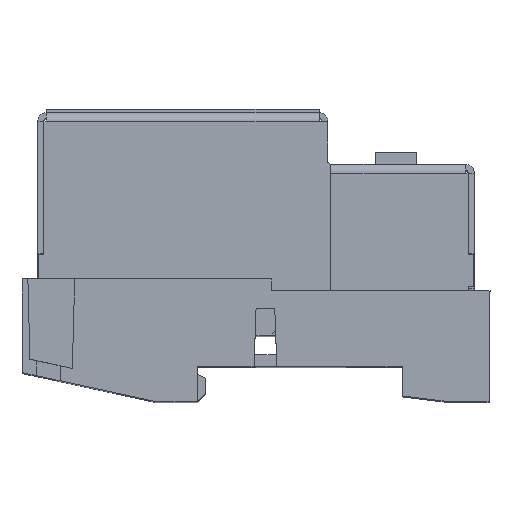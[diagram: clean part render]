
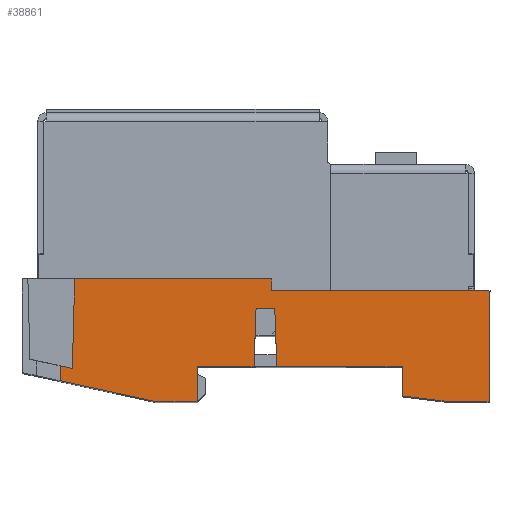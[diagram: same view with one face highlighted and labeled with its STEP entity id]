
A CAD part, top view. The second image highlights one B-rep face of the part: STEP entity #38861.
In plain terms, the highlighted planar face has unit normal (0, -0.009, 1).
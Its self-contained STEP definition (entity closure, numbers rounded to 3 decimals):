
#690 = DIRECTION ( 'NONE',  ( 0., -1., -0.009 ) ) ;
#944 = EDGE_CURVE ( 'NONE', #45774, #19540, #26215, .T. ) ;
#1101 = DIRECTION ( 'NONE',  ( 0.035, -0.999, -0.009 ) ) ;
#1141 = VERTEX_POINT ( 'NONE', #6861 ) ;
#1143 = ORIENTED_EDGE ( 'NONE', *, *, #3344, .T. ) ;
#1192 = CARTESIAN_POINT ( 'NONE',  ( -3.322, -15.278, 48.867 ) ) ;
#1337 = ORIENTED_EDGE ( 'NONE', *, *, #3482, .T. ) ;
#1701 = ORIENTED_EDGE ( 'NONE', *, *, #17022, .F. ) ;
#1982 = CARTESIAN_POINT ( 'NONE',  ( 42.707, -0.855, 48.993 ) ) ;
#2041 = DIRECTION ( 'NONE',  ( 0.035, 0.999, 0.009 ) ) ;
#2387 = VERTEX_POINT ( 'NONE', #42427 ) ;
#2420 = CARTESIAN_POINT ( 'NONE',  ( 30.181, -0.263, 48.998 ) ) ;
#2548 = VECTOR ( 'NONE', #3517, 1000. ) ;
#2570 = VECTOR ( 'NONE', #45564, 1000. ) ;
#2727 = VERTEX_POINT ( 'NONE', #6172 ) ;
#2750 = DIRECTION ( 'NONE',  ( -1., 0., 0. ) ) ;
#2776 = EDGE_CURVE ( 'NONE', #47921, #45774, #30044, .T. ) ;
#2827 = CARTESIAN_POINT ( 'NONE',  ( 30.052, -15., 48.869 ) ) ;
#3098 = EDGE_CURVE ( 'NONE', #23813, #2387, #37292, .T. ) ;
#3139 = VECTOR ( 'NONE', #41629, 1000. ) ;
#3344 = EDGE_CURVE ( 'NONE', #47209, #48500, #31767, .T. ) ;
#3418 = EDGE_CURVE ( 'NONE', #48500, #17091, #11730, .T. ) ;
#3482 = EDGE_CURVE ( 'NONE', #17091, #5913, #43264, .T. ) ;
#3517 = DIRECTION ( 'NONE',  ( 0.977, -0.212, -0.002 ) ) ;
#3631 = EDGE_CURVE ( 'NONE', #47209, #19540, #22003, .T. ) ;
#4737 = CARTESIAN_POINT ( 'NONE',  ( 0., -15., 48.869 ) ) ;
#5704 = CARTESIAN_POINT ( 'NONE',  ( 42.7, 0., 49. ) ) ;
#5913 = VERTEX_POINT ( 'NONE', #26767 ) ;
#6172 = CARTESIAN_POINT ( 'NONE',  ( 73., -21., 48.817 ) ) ;
#6306 = VECTOR ( 'NONE', #17872, 1000. ) ;
#6720 = DIRECTION ( 'NONE',  ( 1., 0., 0. ) ) ;
#6861 = CARTESIAN_POINT ( 'NONE',  ( 64.991, -19.999, 48.825 ) ) ;
#7793 = DIRECTION ( 'NONE',  ( 0., -0.009, 1. ) ) ;
#8496 = EDGE_CURVE ( 'NONE', #32065, #1141, #20196, .T. ) ;
#8643 = VECTOR ( 'NONE', #17848, 1000. ) ;
#8911 = VERTEX_POINT ( 'NONE', #12717 ) ;
#9224 = EDGE_CURVE ( 'NONE', #10789, #47921, #41689, .T. ) ;
#9337 = EDGE_CURVE ( 'NONE', #2727, #19313, #17911, .T. ) ;
#9874 = CARTESIAN_POINT ( 'NONE',  ( 80., -2., 48.983 ) ) ;
#10132 = CARTESIAN_POINT ( 'NONE',  ( 6.5, -14.855, 48.87 ) ) ;
#10789 = VERTEX_POINT ( 'NONE', #37441 ) ;
#11014 = CARTESIAN_POINT ( 'NONE',  ( 64.948, -15., 48.869 ) ) ;
#11548 = PLANE ( 'NONE',  #18625 ) ;
#11730 = LINE ( 'NONE', #1192, #32350 ) ;
#11976 = VECTOR ( 'NONE', #1101, 1000. ) ;
#12564 = CARTESIAN_POINT ( 'NONE',  ( 79.994, -0.698, 48.994 ) ) ;
#12717 = CARTESIAN_POINT ( 'NONE',  ( 39.651, -15., 48.869 ) ) ;
#13290 = VECTOR ( 'NONE', #36018, 1000. ) ;
#13915 = CARTESIAN_POINT ( 'NONE',  ( 64.812, 0.566, 49.005 ) ) ;
#14104 = CARTESIAN_POINT ( 'NONE',  ( 23., -21., 48.817 ) ) ;
#14790 = DIRECTION ( 'NONE',  ( 0.009, 1., 0.009 ) ) ;
#15156 = VECTOR ( 'NONE', #17714, 1000. ) ;
#16035 = FACE_OUTER_BOUND ( 'NONE', #21232, .T. ) ;
#16060 = EDGE_CURVE ( 'NONE', #8911, #2387, #47551, .T. ) ;
#16109 = ORIENTED_EDGE ( 'NONE', *, *, #8496, .T. ) ;
#16485 = DIRECTION ( 'NONE',  ( 0.009, 1., 0.009 ) ) ;
#16697 = VECTOR ( 'NONE', #6720, 1000. ) ;
#17022 = EDGE_CURVE ( 'NONE', #10789, #17028, #46178, .T. ) ;
#17028 = VERTEX_POINT ( 'NONE', #37223 ) ;
#17091 = VERTEX_POINT ( 'NONE', #14104 ) ;
#17714 = DIRECTION ( 'NONE',  ( 1., 0., 0. ) ) ;
#17848 = DIRECTION ( 'NONE',  ( 0.009, -1., -0.009 ) ) ;
#17853 = ORIENTED_EDGE ( 'NONE', *, *, #944, .T. ) ;
#17872 = DIRECTION ( 'NONE',  ( -1., 0., 0. ) ) ;
#17911 = LINE ( 'NONE', #49346, #16697 ) ;
#18354 = CARTESIAN_POINT ( 'NONE',  ( 8.599, -15.311, 48.866 ) ) ;
#18369 = ORIENTED_EDGE ( 'NONE', *, *, #16060, .T. ) ;
#18393 = CARTESIAN_POINT ( 'NONE',  ( 0., -15., 48.869 ) ) ;
#18625 = AXIS2_PLACEMENT_3D ( 'NONE', #31060, #7793, #34904 ) ;
#19313 = VERTEX_POINT ( 'NONE', #20920 ) ;
#19540 = VERTEX_POINT ( 'NONE', #18354 ) ;
#20026 = CARTESIAN_POINT ( 'NONE',  ( 6.5, 0., 49. ) ) ;
#20135 = CARTESIAN_POINT ( 'NONE',  ( 9., 0., 49. ) ) ;
#20196 = LINE ( 'NONE', #13915, #8643 ) ;
#20920 = CARTESIAN_POINT ( 'NONE',  ( 79.817, -21., 48.817 ) ) ;
#20975 = VECTOR ( 'NONE', #33019, 1000. ) ;
#21232 = EDGE_LOOP ( 'NONE', ( #28853, #1143, #40544, #1337, #45291, #27167, #18369, #39284, #46201, #45971, #16109, #38305, #34565, #49313, #1701, #29509, #49190, #17853 ) ) ;
#22003 = LINE ( 'NONE', #50096, #2548 ) ;
#22303 = LINE ( 'NONE', #43700, #11976 ) ;
#22968 = LINE ( 'NONE', #34641, #42444 ) ;
#23233 = LINE ( 'NONE', #18393, #2570 ) ;
#23787 = EDGE_CURVE ( 'NONE', #5913, #41850, #36048, .T. ) ;
#23813 = VERTEX_POINT ( 'NONE', #38072 ) ;
#25110 = VERTEX_POINT ( 'NONE', #27428 ) ;
#25708 = VECTOR ( 'NONE', #14790, 1000. ) ;
#26215 = LINE ( 'NONE', #45386, #36521 ) ;
#26767 = CARTESIAN_POINT ( 'NONE',  ( 30., -21., 48.817 ) ) ;
#26896 = VECTOR ( 'NONE', #2041, 1000. ) ;
#27167 = ORIENTED_EDGE ( 'NONE', *, *, #36332, .T. ) ;
#27428 = CARTESIAN_POINT ( 'NONE',  ( 43.549, -15., 48.869 ) ) ;
#28853 = ORIENTED_EDGE ( 'NONE', *, *, #3631, .F. ) ;
#29509 = ORIENTED_EDGE ( 'NONE', *, *, #9224, .T. ) ;
#29911 = CARTESIAN_POINT ( 'NONE',  ( 0., 0., 49. ) ) ;
#30044 = LINE ( 'NONE', #29911, #40388 ) ;
#30531 = LINE ( 'NONE', #12564, #49990 ) ;
#31060 = CARTESIAN_POINT ( 'NONE',  ( 0., 0., 49. ) ) ;
#31767 = LINE ( 'NONE', #20026, #40896 ) ;
#32065 = VERTEX_POINT ( 'NONE', #11014 ) ;
#32350 = VECTOR ( 'NONE', #47574, 1000. ) ;
#32663 = CARTESIAN_POINT ( 'NONE',  ( 6.5, -17.413, 48.848 ) ) ;
#33019 = DIRECTION ( 'NONE',  ( -0.009, 1., 0.009 ) ) ;
#34565 = ORIENTED_EDGE ( 'NONE', *, *, #9337, .T. ) ;
#34641 = CARTESIAN_POINT ( 'NONE',  ( -1.462, -11.692, 48.898 ) ) ;
#34808 = EDGE_CURVE ( 'NONE', #25110, #32065, #44242, .T. ) ;
#34904 = DIRECTION ( 'NONE',  ( 0., -1., -0.009 ) ) ;
#35097 = EDGE_CURVE ( 'NONE', #1141, #2727, #22968, .T. ) ;
#36018 = DIRECTION ( 'NONE',  ( 1., 0., 0. ) ) ;
#36048 = LINE ( 'NONE', #2420, #25708 ) ;
#36332 = EDGE_CURVE ( 'NONE', #41850, #8911, #23233, .T. ) ;
#36521 = VECTOR ( 'NONE', #49496, 1000. ) ;
#37181 = CARTESIAN_POINT ( 'NONE',  ( 40.126, -1.401, 48.988 ) ) ;
#37223 = CARTESIAN_POINT ( 'NONE',  ( 79.983, -2., 48.983 ) ) ;
#37292 = LINE ( 'NONE', #41340, #6306 ) ;
#37441 = CARTESIAN_POINT ( 'NONE',  ( 42.717, -2., 48.983 ) ) ;
#37688 = CARTESIAN_POINT ( 'NONE',  ( 0., -21., 48.817 ) ) ;
#38072 = CARTESIAN_POINT ( 'NONE',  ( 43.2, -5., 48.956 ) ) ;
#38305 = ORIENTED_EDGE ( 'NONE', *, *, #35097, .T. ) ;
#38861 = ADVANCED_FACE ( 'NONE', ( #16035 ), #11548, .T. ) ;
#39284 = ORIENTED_EDGE ( 'NONE', *, *, #3098, .F. ) ;
#40388 = VECTOR ( 'NONE', #2750, 1000. ) ;
#40544 = ORIENTED_EDGE ( 'NONE', *, *, #3418, .T. ) ;
#40896 = VECTOR ( 'NONE', #690, 1000. ) ;
#41340 = CARTESIAN_POINT ( 'NONE',  ( 0., -5., 48.956 ) ) ;
#41629 = DIRECTION ( 'NONE',  ( 1., 0., 0. ) ) ;
#41689 = LINE ( 'NONE', #1982, #20975 ) ;
#41850 = VERTEX_POINT ( 'NONE', #2827 ) ;
#42334 = DIRECTION ( 'NONE',  ( 0.992, -0.124, -0.001 ) ) ;
#42427 = CARTESIAN_POINT ( 'NONE',  ( 40., -5., 48.956 ) ) ;
#42444 = VECTOR ( 'NONE', #42334, 1000. ) ;
#43264 = LINE ( 'NONE', #37688, #3139 ) ;
#43700 = CARTESIAN_POINT ( 'NONE',  ( 42.973, 1.501, 49.013 ) ) ;
#44242 = LINE ( 'NONE', #4737, #13290 ) ;
#45291 = ORIENTED_EDGE ( 'NONE', *, *, #23787, .T. ) ;
#45386 = CARTESIAN_POINT ( 'NONE',  ( 8.994, -0.235, 48.998 ) ) ;
#45564 = DIRECTION ( 'NONE',  ( 1., 0., 0. ) ) ;
#45774 = VERTEX_POINT ( 'NONE', #20135 ) ;
#45971 = ORIENTED_EDGE ( 'NONE', *, *, #34808, .T. ) ;
#46178 = LINE ( 'NONE', #9874, #15156 ) ;
#46201 = ORIENTED_EDGE ( 'NONE', *, *, #48426, .T. ) ;
#46927 = EDGE_CURVE ( 'NONE', #19313, #17028, #30531, .T. ) ;
#47209 = VERTEX_POINT ( 'NONE', #10132 ) ;
#47551 = LINE ( 'NONE', #37181, #26896 ) ;
#47574 = DIRECTION ( 'NONE',  ( 0.977, -0.212, -0.002 ) ) ;
#47921 = VERTEX_POINT ( 'NONE', #5704 ) ;
#48426 = EDGE_CURVE ( 'NONE', #23813, #25110, #22303, .T. ) ;
#48500 = VERTEX_POINT ( 'NONE', #32663 ) ;
#49190 = ORIENTED_EDGE ( 'NONE', *, *, #2776, .T. ) ;
#49313 = ORIENTED_EDGE ( 'NONE', *, *, #46927, .T. ) ;
#49346 = CARTESIAN_POINT ( 'NONE',  ( 0., -21., 48.817 ) ) ;
#49496 = DIRECTION ( 'NONE',  ( -0.026, -1., -0.009 ) ) ;
#49990 = VECTOR ( 'NONE', #16485, 1000. ) ;
#50096 = CARTESIAN_POINT ( 'NONE',  ( -2.79, -12.835, 48.888 ) ) ;
